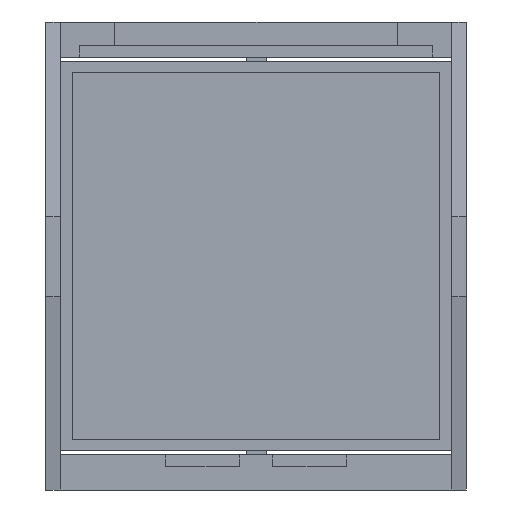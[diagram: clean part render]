
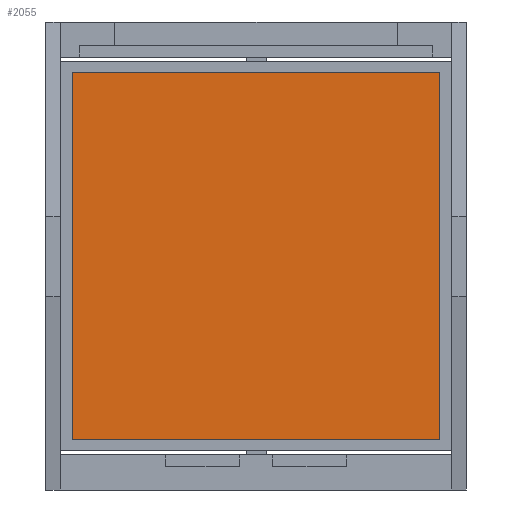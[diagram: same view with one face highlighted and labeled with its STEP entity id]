
A CAD part, front view. The second image highlights one B-rep face of the part: STEP entity #2055.
In plain terms, the highlighted planar face has unit normal (0, -1, 0).
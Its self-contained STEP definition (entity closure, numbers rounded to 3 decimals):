
#416 = CARTESIAN_POINT ( 'NONE',  ( -31.099, -0.416, 43.342 ) ) ;
#629 = DIRECTION ( 'NONE',  ( 0., 0., 1. ) ) ;
#800 = EDGE_CURVE ( 'NONE', #5687, #1589, #7956, .T. ) ;
#888 = LINE ( 'NONE', #2976, #7995 ) ;
#1589 = VERTEX_POINT ( 'NONE', #6840 ) ;
#1700 = ORIENTED_EDGE ( 'NONE', *, *, #800, .F. ) ;
#1958 = LINE ( 'NONE', #9331, #2549 ) ;
#2055 = ADVANCED_FACE ( 'NONE', ( #2309 ), #5299, .F. ) ;
#2204 = AXIS2_PLACEMENT_3D ( 'NONE', #5338, #2775, #6547 ) ;
#2309 = FACE_OUTER_BOUND ( 'NONE', #3761, .T. ) ;
#2549 = VECTOR ( 'NONE', #4109, 1000. ) ;
#2775 = DIRECTION ( 'NONE',  ( 0., 1., 0. ) ) ;
#2976 = CARTESIAN_POINT ( 'NONE',  ( -31.099, -0.416, 8.342 ) ) ;
#3353 = EDGE_CURVE ( 'NONE', #8652, #5687, #1958, .T. ) ;
#3761 = EDGE_LOOP ( 'NONE', ( #1700, #8266, #6179, #7809 ) ) ;
#4049 = VERTEX_POINT ( 'NONE', #416 ) ;
#4109 = DIRECTION ( 'NONE',  ( -1., 0., 0. ) ) ;
#4899 = EDGE_CURVE ( 'NONE', #1589, #4049, #4997, .T. ) ;
#4997 = LINE ( 'NONE', #8804, #9069 ) ;
#5159 = CARTESIAN_POINT ( 'NONE',  ( -31.099, -0.416, 8.342 ) ) ;
#5299 = PLANE ( 'NONE',  #2204 ) ;
#5338 = CARTESIAN_POINT ( 'NONE',  ( -66.099, -0.416, 43.342 ) ) ;
#5581 = EDGE_CURVE ( 'NONE', #4049, #8652, #888, .T. ) ;
#5687 = VERTEX_POINT ( 'NONE', #6408 ) ;
#6179 = ORIENTED_EDGE ( 'NONE', *, *, #5581, .F. ) ;
#6408 = CARTESIAN_POINT ( 'NONE',  ( -66.099, -0.416, 8.342 ) ) ;
#6547 = DIRECTION ( 'NONE',  ( 0., 0., 1. ) ) ;
#6608 = DIRECTION ( 'NONE',  ( 0., 0., -1. ) ) ;
#6840 = CARTESIAN_POINT ( 'NONE',  ( -66.099, -0.416, 43.342 ) ) ;
#6967 = VECTOR ( 'NONE', #629, 1000. ) ;
#7809 = ORIENTED_EDGE ( 'NONE', *, *, #4899, .F. ) ;
#7898 = CARTESIAN_POINT ( 'NONE',  ( -66.099, -0.416, 8.342 ) ) ;
#7956 = LINE ( 'NONE', #7898, #6967 ) ;
#7995 = VECTOR ( 'NONE', #6608, 1000. ) ;
#8266 = ORIENTED_EDGE ( 'NONE', *, *, #3353, .F. ) ;
#8652 = VERTEX_POINT ( 'NONE', #5159 ) ;
#8804 = CARTESIAN_POINT ( 'NONE',  ( -66.099, -0.416, 43.342 ) ) ;
#9069 = VECTOR ( 'NONE', #9436, 1000. ) ;
#9331 = CARTESIAN_POINT ( 'NONE',  ( -66.099, -0.416, 8.342 ) ) ;
#9436 = DIRECTION ( 'NONE',  ( 1., 0., 0. ) ) ;
